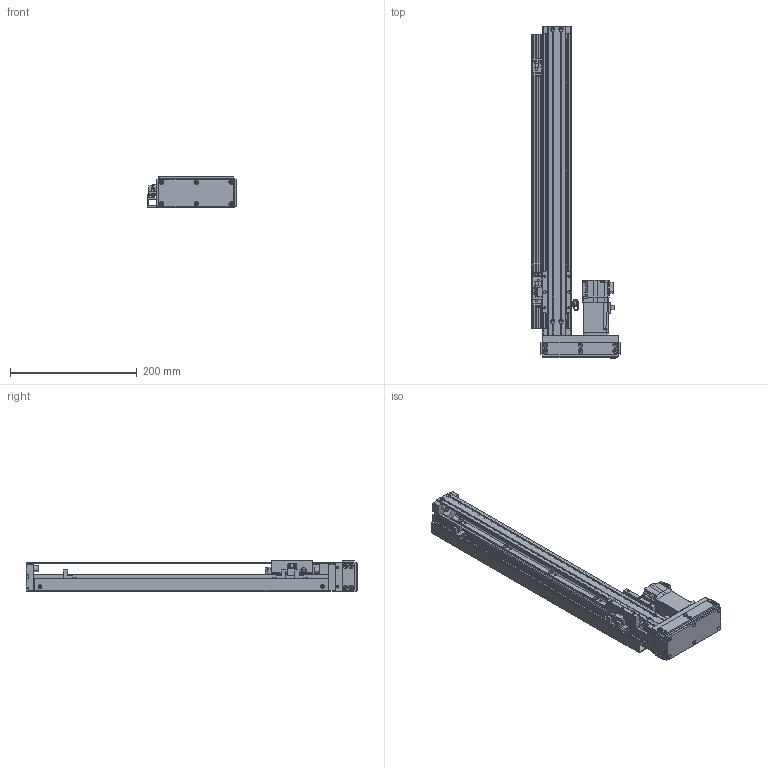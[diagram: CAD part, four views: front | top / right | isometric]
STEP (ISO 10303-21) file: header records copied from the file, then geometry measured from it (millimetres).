
FILE_DESCRIPTION(/* description */ ('MANUFACTURE'),/* implementation_level */ '2;1');
FILE_NAME(/* name */ '\\192.168.0.160\disk1\HAN SHIN Master\B-설계부문\C-표준\B-2024년\BC02-표준도면\+로봇 개선표준도면\표준 승인도 폴더 - 재작업\3D\HG45\병렬-R\HG45-R10-N-0350-L10.stp',/* time_stamp */ '2024-03-05T10:03:24+09:00',/* author */ ('User'),/* organization */ (''),/* preprocessor_version */ 'ST-DEVELOPER v18.1',/* originating_system */ 'Autodesk Inventor 2022',/* authorisation */ 'LIP');
FILE_SCHEMA (('AUTOMOTIVE_DESIGN { 1 0 10303 214 3 1 1 }'));
Products named in the file (21): HG45-L10-N-0500-R10 - 간소화; HR45 S BASE; HR45 REAR BLOCK; HR45 FRONT BLOCK; HR45 STOPPER; HR45 SENSOR RAIL; HC45 - TABLE (SFSR); HR45 UPCOVER-28mm; HR45 MOTOR PLATE 100W; hg-kr13_; 화살표; ESF1210 NUT; HR45 LR BELT COVER; HR45 ACRYL COVER(정면); HR45 ACRYL COVER(측면); HR45 ACRYL COVER(상하면); HC45 L,R MOTOR PLATE_MIR; HR45 SENSOR DOG; NIPPLE CAP(신규); hsr_ftht_A-M6F_grease_nipple_joint; EE_SX674A
Assembly tree (27 placements, depth 2):
  HG45-L10-N-0500-R10 - 간소화
    HR45 S BASE
    HR45 REAR BLOCK
    HR45 FRONT BLOCK
    HR45 STOPPER  x4
    HR45 SENSOR RAIL
    HC45 - TABLE (SFSR)
    HR45 UPCOVER-28mm
    HR45 MOTOR PLATE 100W
    hg-kr13_
    화살표  x2
    EE_SX674A  x3
    ESF1210 NUT
    HR45 LR BELT COVER
    HR45 ACRYL COVER(상하면)  x2
    HR45 ACRYL COVER(정면)
    HR45 ACRYL COVER(측면)
    HC45 L,R MOTOR PLATE_MIR
    HR45 SENSOR DOG
    NIPPLE CAP(신규)
    hsr_ftht_A-M6F_grease_nipple_joint
Bounding box: 139.5 x 524 x 50 mm (x, y, z)
Volume: 622772.7 mm3; surface area: 328225.4 mm2
Topology: 27 solids, 27 shells, 2320 faces, 6354 edges, 4176 vertices
Faces by surface type: plane 1660, cylinder 506, cone 127, bspline 13, sphere 8, torus 6
Full cylindrical faces by diameter (mm): 1 x1, 2.013 x6, 2.459 x74, 2.5 x4, 3 x11, 3.242 x22, 3.4 x36, 3.5 x21, 4 x13, 4.134 x1, 4.5 x16, 4.917 x2, 5.6 x3, 5.9 x2, 6 x20, 6.5 x6, 8 x11, 9 x4, 10 x1, 12 x1, 13 x1, 15 x1, 18 x1, 22 x2, 24 x1, 26 x1, 30 x2
Entity records: 72380 total; most frequent: CARTESIAN_POINT 13945, ORIENTED_EDGE 11828, DIRECTION 11248, EDGE_CURVE 5914, LINE 4670, VECTOR 4670, VERTEX_POINT 3929, AXIS2_PLACEMENT_3D 3289
